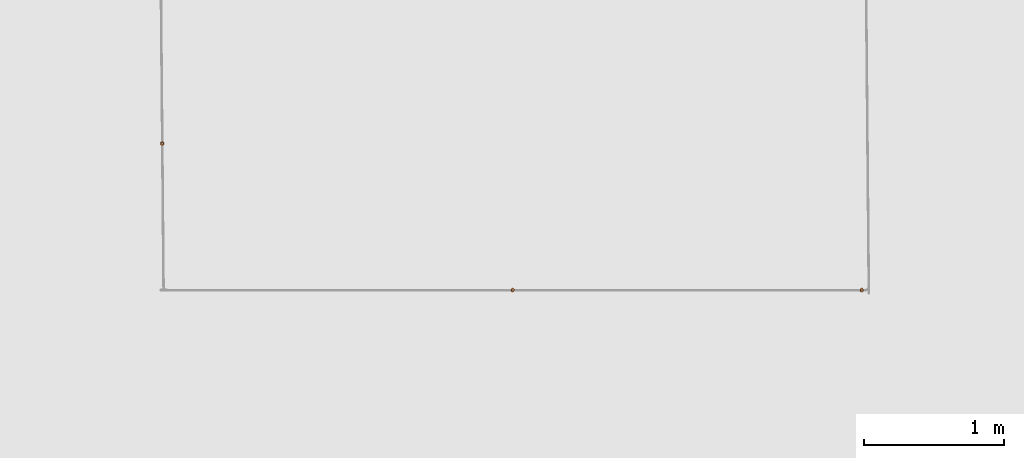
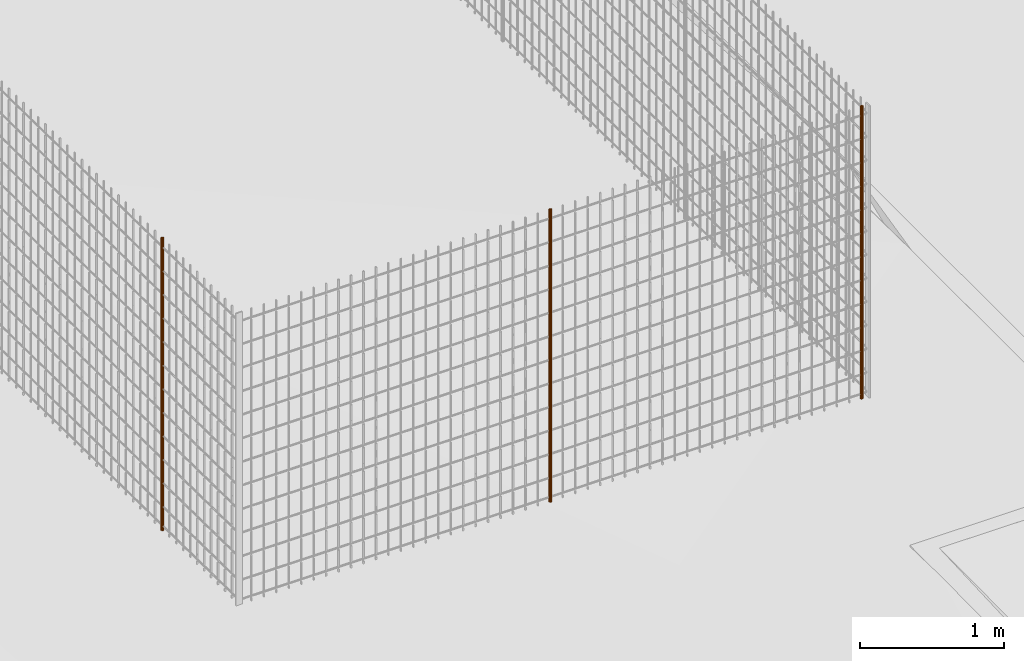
# One storey, part 9 of 1809: 3 proxies, 1 element without a shape of its own.
"""IFC2X3 building model written with IfcOpenShell, lengths in millimetres."""

from ifc_helpers import new_model, entity, si_unit, converted_unit, derived_unit, money_unit, direction, frame, origin_with_axes, place, context, subcontext, project, spatial, faceted_brep, source, transform, mapped, material, type_object, element, aggregate, save


model = new_model("IFC2X3")

# Units and contexts
model_context = context("Model", 3, precision=0.01, world=origin_with_axes(), true_north=direction((0.0, 1.0)))
body_context = subcontext(model_context, "Body", "Model", "MODEL_VIEW")
ifc_project = project(units=[si_unit("LENGTHUNIT", "METRE", prefix="MILLI"), si_unit("AREAUNIT", "SQUARE_METRE"), si_unit("VOLUMEUNIT", "CUBIC_METRE"), converted_unit("PLANEANGLEUNIT", "DEGREE", entity("IfcPlaneAngleMeasure", 0.0174532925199), si_unit("PLANEANGLEUNIT", "RADIAN"), dimensions=[0, 0, 0, 0, 0, 0, 0]), si_unit("SOLIDANGLEUNIT", "STERADIAN"), money_unit("EUR"), converted_unit("TIMEUNIT", "Year", entity("IfcTimeMeasure", 31556926.0), si_unit("TIMEUNIT", "SECOND"), dimensions=[0, 0, 1, 0, 0, 0, 0]), si_unit("MASSUNIT", "GRAM", prefix="KILO"), si_unit("THERMODYNAMICTEMPERATUREUNIT", "DEGREE_CELSIUS"), si_unit("LUMINOUSINTENSITYUNIT", "LUMEN"), si_unit("ENERGYUNIT", "JOULE", prefix="MEGA"), derived_unit("THERMALCONDUCTANCEUNIT", [(si_unit("POWERUNIT", "WATT"), 1), (si_unit("LENGTHUNIT", "METRE"), -1), (si_unit("THERMODYNAMICTEMPERATUREUNIT", "KELVIN"), -1)]), derived_unit("SPECIFICHEATCAPACITYUNIT", [(si_unit("ENERGYUNIT", "JOULE"), 1), (si_unit("MASSUNIT", "GRAM", prefix="KILO"), -1), (si_unit("THERMODYNAMICTEMPERATUREUNIT", "KELVIN"), -1)]), derived_unit("MASSDENSITYUNIT", [(si_unit("MASSUNIT", "GRAM", prefix="KILO"), 1), (si_unit("VOLUMEUNIT", "CUBIC_METRE"), -1)])], contexts=[model_context])

# Site, building, storey
site_placement = place(None, origin_with_axes())
site = spatial("IfcSite", under=ifc_project, at=site_placement, Name="Politse- ja Piirivalveameti ning Päästeameti ühishoone", CompositionType="ELEMENT")
building_placement = place(site_placement, origin_with_axes())
building = spatial("IfcBuilding", under=site, at=building_placement, Name="Politse- ja Piirivalveameti ning Päästeameti ühishoone", CompositionType="ELEMENT")
storey_placement = place(building_placement, origin_with_axes())
storey = spatial("IfcBuildingStorey", under=building, at=storey_placement, Name="Esimene korrus", CompositionType="ELEMENT", Elevation=0.0)

# Proxies
building_element_proxy_type_1 = type_object("IfcBuildingElementProxyType", Name="Railing Type", PredefinedType="NOTDEFINED")
proxy_1_placement = place(storey_placement, frame((-16775.8601056, 25156.7555964, 0.0), z_axis=(0.0, 0.0, 1.0), x_axis=(1.0, 0.0, 0.0)))
proxy_1 = element("IfcBuildingElementProxy", 1, at=proxy_1_placement, inside=storey, type_object=building_element_proxy_type_1, Name="KENNELI PIIRE")
ifc_material = material(Name="Teras - Konstruktsioon")
building_element_proxy_type_2 = type_object("IfcBuildingElementProxyType", Name="IfcBuildingElementProxy", PredefinedType="NOTDEFINED")
shared_shape_1 = source(origin_with_axes(), body_context, "Body", "Brep", [
    faceted_brep([(0.0, -12.0, 0.0), (2.083778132, -11.8176930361, 0.0), (2.083778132, -11.8176930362, 2480.0), (0.0, -12.0, 2480.0), (-2.083778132, -11.8176930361, 0.0), (-4.10424171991, -11.2763114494, 0.0), (-6.0, -10.3923048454, 0.0), (-7.71345131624, -9.19253331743, 0.0), (-9.19253331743, -7.71345131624, 0.0), (-10.3923048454, -6.0, 0.0), (-11.2763114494, -4.10424171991, 0.0), (-11.8176930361, -2.083778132, 0.0), (-12.0, 0.0, 0.0), (-11.8176930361, 2.083778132, 0.0), (-11.2763114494, 4.10424171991, 0.0), (-10.3923048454, 6.0, 0.0), (-9.19253331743, 7.71345131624, 0.0), (-7.71345131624, 9.19253331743, 0.0), (-6.0, 10.3923048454, 0.0), (-4.10424171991, 11.2763114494, 0.0), (-2.083778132, 11.8176930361, 0.0), (0.0, 12.0, 0.0), (2.083778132, 11.8176930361, 0.0), (4.10424171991, 11.2763114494, 0.0), (6.0, 10.3923048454, 0.0), (7.71345131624, 9.19253331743, 0.0), (9.19253331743, 7.71345131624, 0.0), (10.3923048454, 6.0, 0.0), (11.2763114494, 4.10424171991, 0.0), (11.8176930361, 2.083778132, 0.0), (12.0, 0.0, 0.0), (11.8176930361, -2.083778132, 0.0), (11.2763114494, -4.10424171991, 0.0), (10.3923048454, -6.0, 0.0), (9.19253331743, -7.71345131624, 0.0), (7.71345131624, -9.19253331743, 0.0), (6.0, -10.3923048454, 0.0), (4.10424171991, -11.2763114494, 0.0), (0.0, -7.0, 0.0), (1.21553724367, -6.89365427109, 0.0), (2.39414100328, -6.5778483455, 0.0), (3.5, -6.06217782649, 0.0), (4.49951326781, -5.36231110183, 0.0), (5.36231110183, -4.49951326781, 0.0), (6.06217782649, -3.5, 0.0), (6.5778483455, -2.39414100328, 0.0), (6.89365427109, -1.21553724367, 0.0), (7.0, 0.0, 0.0), (6.89365427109, 1.21553724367, 0.0), (6.5778483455, 2.39414100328, 0.0), (6.06217782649, 3.5, 0.0), (5.36231110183, 4.49951326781, 0.0), (4.49951326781, 5.36231110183, 0.0), (3.5, 6.06217782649, 0.0), (2.39414100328, 6.5778483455, 0.0), (1.21553724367, 6.89365427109, 0.0), (0.0, 7.0, 0.0), (-1.21553724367, 6.89365427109, 0.0), (-2.39414100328, 6.5778483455, 0.0), (-3.5, 6.06217782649, 0.0), (-4.49951326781, 5.36231110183, 0.0), (-5.36231110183, 4.49951326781, 0.0), (-6.06217782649, 3.5, 0.0), (-6.5778483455, 2.39414100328, 0.0), (-6.89365427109, 1.21553724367, 0.0), (-7.0, 0.0, 0.0), (-6.89365427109, -1.21553724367, 0.0), (-6.5778483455, -2.39414100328, 0.0), (-6.06217782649, -3.5, 0.0), (-5.36231110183, -4.49951326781, 0.0), (-4.49951326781, -5.36231110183, 0.0), (-3.5, -6.06217782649, 0.0), (-2.39414100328, -6.5778483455, 0.0), (-1.21553724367, -6.89365427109, 0.0), (4.1042417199, -11.2763114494, 2480.0), (5.99999999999, -10.3923048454, 2480.0), (7.71345131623, -9.19253331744, 2480.0), (9.19253331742, -7.71345131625, 2480.0), (10.3923048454, -6.00000000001, 2480.0), (11.2763114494, -4.10424171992, 2480.0), (11.8176930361, -2.08377813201, 2480.0), (12.0, 0.0, 2480.0), (11.8176930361, 2.08377813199, 2480.0), (11.2763114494, 4.1042417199, 2480.0), (10.3923048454, 5.99999999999, 2480.0), (9.19253331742, 7.71345131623, 2480.0), (7.71345131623, 9.19253331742, 2480.0), (5.99999999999, 10.3923048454, 2480.0), (4.1042417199, 11.2763114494, 2480.0), (2.083778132, 11.8176930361, 2480.0), (0.0, 12.0, 2480.0), (-2.08377813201, 11.8176930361, 2480.0), (-4.10424171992, 11.2763114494, 2480.0), (-6.00000000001, 10.3923048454, 2480.0), (-7.71345131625, 9.19253331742, 2480.0), (-9.19253331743, 7.71345131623, 2480.0), (-10.3923048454, 5.99999999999, 2480.0), (-11.2763114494, 4.1042417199, 2480.0), (-11.8176930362, 2.08377813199, 2480.0), (-12.0, 0.0, 2480.0), (-11.8176930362, -2.08377813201, 2480.0), (-11.2763114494, -4.10424171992, 2480.0), (-10.3923048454, -6.00000000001, 2480.0), (-9.19253331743, -7.71345131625, 2480.0), (-7.71345131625, -9.19253331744, 2480.0), (-6.00000000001, -10.3923048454, 2480.0), (-4.10424171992, -11.2763114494, 2480.0), (-2.08377813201, -11.8176930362, 2480.0), (0.0, -7.00000000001, 2480.0), (-1.21553724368, -6.89365427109, 2480.0), (-2.39414100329, -6.57784834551, 2480.0), (-3.50000000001, -6.0621778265, 2480.0), (-4.49951326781, -5.36231110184, 2480.0), (-5.36231110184, -4.49951326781, 2480.0), (-6.0621778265, -3.50000000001, 2480.0), (-6.57784834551, -2.39414100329, 2480.0), (-6.89365427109, -1.21553724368, 2480.0), (-7.00000000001, 0.0, 2480.0), (-6.89365427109, 1.21553724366, 2480.0), (-6.57784834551, 2.39414100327, 2480.0), (-6.0621778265, 3.49999999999, 2480.0), (-5.36231110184, 4.4995132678, 2480.0), (-4.49951326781, 5.36231110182, 2480.0), (-3.50000000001, 6.06217782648, 2480.0), (-2.39414100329, 6.57784834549, 2480.0), (-1.21553724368, 6.89365427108, 2480.0), (0.0, 6.99999999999, 2480.0), (1.21553724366, 6.89365427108, 2480.0), (2.39414100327, 6.57784834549, 2480.0), (3.49999999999, 6.06217782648, 2480.0), (4.4995132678, 5.36231110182, 2480.0), (5.36231110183, 4.4995132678, 2480.0), (6.06217782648, 3.49999999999, 2480.0), (6.57784834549, 2.39414100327, 2480.0), (6.89365427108, 1.21553724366, 2480.0), (6.99999999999, 0.0, 2480.0), (6.89365427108, -1.21553724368, 2480.0), (6.57784834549, -2.39414100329, 2480.0), (6.06217782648, -3.50000000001, 2480.0), (5.36231110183, -4.49951326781, 2480.0), (4.4995132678, -5.36231110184, 2480.0), (3.49999999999, -6.0621778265, 2480.0), (2.39414100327, -6.57784834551, 2480.0), (1.21553724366, -6.89365427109, 2480.0)], [[[0, 1, 2, 3]], [[0, 4, 5, 6, 7, 8, 9, 10, 11, 12, 13, 14, 15, 16, 17, 18, 19, 20, 21, 22, 23, 24, 25, 26, 27, 28, 29, 30, 31, 32, 33, 34, 35, 36, 37, 1], [38, 39, 40, 41, 42, 43, 44, 45, 46, 47, 48, 49, 50, 51, 52, 53, 54, 55, 56, 57, 58, 59, 60, 61, 62, 63, 64, 65, 66, 67, 68, 69, 70, 71, 72, 73]], [[1, 37, 74, 2]], [[3, 2, 74, 75, 76, 77, 78, 79, 80, 81, 82, 83, 84, 85, 86, 87, 88, 89, 90, 91, 92, 93, 94, 95, 96, 97, 98, 99, 100, 101, 102, 103, 104, 105, 106, 107], [108, 109, 110, 111, 112, 113, 114, 115, 116, 117, 118, 119, 120, 121, 122, 123, 124, 125, 126, 127, 128, 129, 130, 131, 132, 133, 134, 135, 136, 137, 138, 139, 140, 141, 142, 143]], [[4, 0, 3, 107]], [[5, 4, 107, 106]], [[6, 5, 106, 105]], [[7, 6, 105, 104]], [[8, 7, 104, 103]], [[9, 8, 103, 102]], [[10, 9, 102, 101]], [[11, 10, 101, 100]], [[12, 11, 100, 99]], [[13, 12, 99, 98]], [[14, 13, 98, 97]], [[15, 14, 97, 96]], [[16, 15, 96, 95]], [[17, 16, 95, 94]], [[18, 17, 94, 93]], [[19, 18, 93, 92]], [[20, 19, 92, 91]], [[21, 20, 91, 90]], [[22, 21, 90, 89]], [[23, 22, 89, 88]], [[24, 23, 88, 87]], [[25, 24, 87, 86]], [[26, 25, 86, 85]], [[27, 26, 85, 84]], [[28, 27, 84, 83]], [[29, 28, 83, 82]], [[30, 29, 82, 81]], [[31, 30, 81, 80]], [[32, 31, 80, 79]], [[33, 32, 79, 78]], [[34, 33, 78, 77]], [[35, 34, 77, 76]], [[36, 35, 76, 75]], [[37, 36, 75, 74]], [[39, 38, 108, 143]], [[40, 39, 143, 142]], [[41, 40, 142, 141]], [[42, 41, 141, 140]], [[43, 42, 140, 139]], [[44, 43, 139, 138]], [[45, 44, 138, 137]], [[46, 45, 137, 136]], [[47, 46, 136, 135]], [[48, 47, 135, 134]], [[49, 48, 134, 133]], [[50, 49, 133, 132]], [[51, 50, 132, 131]], [[52, 51, 131, 130]], [[53, 52, 130, 129]], [[54, 53, 129, 128]], [[55, 54, 128, 127]], [[56, 55, 127, 126]], [[57, 56, 126, 125]], [[58, 57, 125, 124]], [[59, 58, 124, 123]], [[60, 59, 123, 122]], [[61, 60, 122, 121]], [[62, 61, 121, 120]], [[63, 62, 120, 119]], [[64, 63, 119, 118]], [[65, 64, 118, 117]], [[66, 65, 117, 116]], [[67, 66, 116, 115]], [[68, 67, 115, 114]], [[69, 68, 114, 113]], [[70, 69, 113, 112]], [[71, 70, 112, 111]], [[72, 71, 111, 110]], [[73, 72, 110, 109]], [[38, 73, 109, 108]]]),
])
proxy_2_placement = place(proxy_1_placement, frame((-4891.60395565, -15019.1031937, 0.0), z_axis=(0.0, 0.0, 1.0), x_axis=(1.0, 0.0, 0.0)))
proxy_2 = element("IfcBuildingElementProxy", 2, at=proxy_2_placement, type_object=building_element_proxy_type_2, material=ifc_material, Name="SISEPOST - 001", context=body_context, shape_type="MappedRepresentation", body=[
    mapped(shared_shape_1, transform((0.0, 0.0, 0.0), x_axis=(-0.999960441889, -0.00889464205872, 0.0), y_axis=(0.00889464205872, -0.999960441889, 0.0), z_axis=(0.0, 0.0, 1.0))),
])
shared_shape_2 = source(origin_with_axes(), body_context, "Body", "Brep", [
    faceted_brep([(0.0, -12.0, 0.0), (2.083778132, -11.8176930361, 0.0), (2.08377813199, -11.8176930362, 2480.0), (0.0, -12.0, 2480.0), (-2.083778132, -11.8176930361, 0.0), (-4.10424171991, -11.2763114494, 0.0), (-6.0, -10.3923048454, 0.0), (-7.71345131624, -9.19253331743, 0.0), (-9.19253331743, -7.71345131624, 0.0), (-10.3923048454, -6.0, 0.0), (-11.2763114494, -4.10424171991, 0.0), (-11.8176930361, -2.083778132, 0.0), (-12.0, 0.0, 0.0), (-11.8176930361, 2.083778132, 0.0), (-11.2763114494, 4.10424171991, 0.0), (-10.3923048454, 6.0, 0.0), (-9.19253331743, 7.71345131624, 0.0), (-7.71345131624, 9.19253331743, 0.0), (-6.0, 10.3923048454, 0.0), (-4.10424171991, 11.2763114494, 0.0), (-2.083778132, 11.8176930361, 0.0), (0.0, 12.0, 0.0), (2.083778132, 11.8176930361, 0.0), (4.10424171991, 11.2763114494, 0.0), (6.0, 10.3923048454, 0.0), (7.71345131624, 9.19253331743, 0.0), (9.19253331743, 7.71345131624, 0.0), (10.3923048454, 6.0, 0.0), (11.2763114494, 4.10424171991, 0.0), (11.8176930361, 2.083778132, 0.0), (12.0, 0.0, 0.0), (11.8176930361, -2.083778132, 0.0), (11.2763114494, -4.10424171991, 0.0), (10.3923048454, -6.0, 0.0), (9.19253331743, -7.71345131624, 0.0), (7.71345131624, -9.19253331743, 0.0), (6.0, -10.3923048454, 0.0), (4.10424171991, -11.2763114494, 0.0), (0.0, -7.0, 0.0), (1.21553724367, -6.89365427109, 0.0), (2.39414100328, -6.5778483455, 0.0), (3.5, -6.06217782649, 0.0), (4.49951326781, -5.36231110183, 0.0), (5.36231110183, -4.49951326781, 0.0), (6.06217782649, -3.5, 0.0), (6.5778483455, -2.39414100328, 0.0), (6.89365427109, -1.21553724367, 0.0), (7.0, 0.0, 0.0), (6.89365427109, 1.21553724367, 0.0), (6.5778483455, 2.39414100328, 0.0), (6.06217782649, 3.5, 0.0), (5.36231110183, 4.49951326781, 0.0), (4.49951326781, 5.36231110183, 0.0), (3.5, 6.06217782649, 0.0), (2.39414100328, 6.5778483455, 0.0), (1.21553724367, 6.89365427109, 0.0), (0.0, 7.0, 0.0), (-1.21553724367, 6.89365427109, 0.0), (-2.39414100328, 6.5778483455, 0.0), (-3.5, 6.06217782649, 0.0), (-4.49951326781, 5.36231110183, 0.0), (-5.36231110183, 4.49951326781, 0.0), (-6.06217782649, 3.5, 0.0), (-6.5778483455, 2.39414100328, 0.0), (-6.89365427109, 1.21553724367, 0.0), (-7.0, 0.0, 0.0), (-6.89365427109, -1.21553724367, 0.0), (-6.5778483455, -2.39414100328, 0.0), (-6.06217782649, -3.5, 0.0), (-5.36231110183, -4.49951326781, 0.0), (-4.49951326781, -5.36231110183, 0.0), (-3.5, -6.06217782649, 0.0), (-2.39414100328, -6.5778483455, 0.0), (-1.21553724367, -6.89365427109, 0.0), (4.1042417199, -11.2763114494, 2480.0), (5.99999999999, -10.3923048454, 2480.0), (7.71345131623, -9.19253331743, 2480.0), (9.19253331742, -7.71345131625, 2480.0), (10.3923048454, -6.00000000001, 2480.0), (11.2763114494, -4.10424171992, 2480.0), (11.8176930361, -2.08377813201, 2480.0), (12.0, 0.0, 2480.0), (11.8176930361, 2.083778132, 2480.0), (11.2763114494, 4.1042417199, 2480.0), (10.3923048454, 5.99999999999, 2480.0), (9.19253331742, 7.71345131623, 2480.0), (7.71345131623, 9.19253331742, 2480.0), (5.99999999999, 10.3923048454, 2480.0), (4.1042417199, 11.2763114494, 2480.0), (2.08377813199, 11.8176930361, 2480.0), (0.0, 12.0, 2480.0), (-2.08377813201, 11.8176930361, 2480.0), (-4.10424171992, 11.2763114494, 2480.0), (-6.00000000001, 10.3923048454, 2480.0), (-7.71345131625, 9.19253331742, 2480.0), (-9.19253331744, 7.71345131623, 2480.0), (-10.3923048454, 5.99999999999, 2480.0), (-11.2763114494, 4.1042417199, 2480.0), (-11.8176930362, 2.083778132, 2480.0), (-12.0, 0.0, 2480.0), (-11.8176930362, -2.08377813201, 2480.0), (-11.2763114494, -4.10424171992, 2480.0), (-10.3923048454, -6.00000000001, 2480.0), (-9.19253331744, -7.71345131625, 2480.0), (-7.71345131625, -9.19253331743, 2480.0), (-6.00000000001, -10.3923048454, 2480.0), (-4.10424171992, -11.2763114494, 2480.0), (-2.08377813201, -11.8176930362, 2480.0), (0.0, -7.00000000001, 2480.0), (-1.21553724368, -6.89365427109, 2480.0), (-2.39414100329, -6.57784834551, 2480.0), (-3.50000000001, -6.0621778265, 2480.0), (-4.49951326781, -5.36231110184, 2480.0), (-5.36231110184, -4.49951326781, 2480.0), (-6.0621778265, -3.50000000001, 2480.0), (-6.57784834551, -2.39414100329, 2480.0), (-6.89365427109, -1.21553724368, 2480.0), (-7.00000000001, 0.0, 2480.0), (-6.89365427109, 1.21553724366, 2480.0), (-6.57784834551, 2.39414100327, 2480.0), (-6.0621778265, 3.49999999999, 2480.0), (-5.36231110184, 4.4995132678, 2480.0), (-4.49951326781, 5.36231110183, 2480.0), (-3.50000000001, 6.06217782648, 2480.0), (-2.39414100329, 6.57784834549, 2480.0), (-1.21553724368, 6.89365427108, 2480.0), (0.0, 6.99999999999, 2480.0), (1.21553724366, 6.89365427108, 2480.0), (2.39414100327, 6.57784834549, 2480.0), (3.49999999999, 6.06217782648, 2480.0), (4.4995132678, 5.36231110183, 2480.0), (5.36231110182, 4.4995132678, 2480.0), (6.06217782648, 3.49999999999, 2480.0), (6.57784834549, 2.39414100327, 2480.0), (6.89365427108, 1.21553724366, 2480.0), (6.99999999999, 0.0, 2480.0), (6.89365427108, -1.21553724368, 2480.0), (6.57784834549, -2.39414100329, 2480.0), (6.06217782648, -3.50000000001, 2480.0), (5.36231110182, -4.49951326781, 2480.0), (4.4995132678, -5.36231110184, 2480.0), (3.49999999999, -6.0621778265, 2480.0), (2.39414100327, -6.57784834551, 2480.0), (1.21553724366, -6.89365427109, 2480.0)], [[[0, 1, 2, 3]], [[0, 4, 5, 6, 7, 8, 9, 10, 11, 12, 13, 14, 15, 16, 17, 18, 19, 20, 21, 22, 23, 24, 25, 26, 27, 28, 29, 30, 31, 32, 33, 34, 35, 36, 37, 1], [38, 39, 40, 41, 42, 43, 44, 45, 46, 47, 48, 49, 50, 51, 52, 53, 54, 55, 56, 57, 58, 59, 60, 61, 62, 63, 64, 65, 66, 67, 68, 69, 70, 71, 72, 73]], [[1, 37, 74, 2]], [[3, 2, 74, 75, 76, 77, 78, 79, 80, 81, 82, 83, 84, 85, 86, 87, 88, 89, 90, 91, 92, 93, 94, 95, 96, 97, 98, 99, 100, 101, 102, 103, 104, 105, 106, 107], [108, 109, 110, 111, 112, 113, 114, 115, 116, 117, 118, 119, 120, 121, 122, 123, 124, 125, 126, 127, 128, 129, 130, 131, 132, 133, 134, 135, 136, 137, 138, 139, 140, 141, 142, 143]], [[4, 0, 3, 107]], [[5, 4, 107, 106]], [[6, 5, 106, 105]], [[7, 6, 105, 104]], [[8, 7, 104, 103]], [[9, 8, 103, 102]], [[10, 9, 102, 101]], [[11, 10, 101, 100]], [[12, 11, 100, 99]], [[13, 12, 99, 98]], [[14, 13, 98, 97]], [[15, 14, 97, 96]], [[16, 15, 96, 95]], [[17, 16, 95, 94]], [[18, 17, 94, 93]], [[19, 18, 93, 92]], [[20, 19, 92, 91]], [[21, 20, 91, 90]], [[22, 21, 90, 89]], [[23, 22, 89, 88]], [[24, 23, 88, 87]], [[25, 24, 87, 86]], [[26, 25, 86, 85]], [[27, 26, 85, 84]], [[28, 27, 84, 83]], [[29, 28, 83, 82]], [[30, 29, 82, 81]], [[31, 30, 81, 80]], [[32, 31, 80, 79]], [[33, 32, 79, 78]], [[34, 33, 78, 77]], [[35, 34, 77, 76]], [[36, 35, 76, 75]], [[37, 36, 75, 74]], [[39, 38, 108, 143]], [[40, 39, 143, 142]], [[41, 40, 142, 141]], [[42, 41, 141, 140]], [[43, 42, 140, 139]], [[44, 43, 139, 138]], [[45, 44, 138, 137]], [[46, 45, 137, 136]], [[47, 46, 136, 135]], [[48, 47, 135, 134]], [[49, 48, 134, 133]], [[50, 49, 133, 132]], [[51, 50, 132, 131]], [[52, 51, 131, 130]], [[53, 52, 130, 129]], [[54, 53, 129, 128]], [[55, 54, 128, 127]], [[56, 55, 127, 126]], [[57, 56, 126, 125]], [[58, 57, 125, 124]], [[59, 58, 124, 123]], [[60, 59, 123, 122]], [[61, 60, 122, 121]], [[62, 61, 121, 120]], [[63, 62, 120, 119]], [[64, 63, 119, 118]], [[65, 64, 118, 117]], [[66, 65, 117, 116]], [[67, 66, 116, 115]], [[68, 67, 115, 114]], [[69, 68, 114, 113]], [[70, 69, 113, 112]], [[71, 70, 112, 111]], [[72, 71, 111, 110]], [[73, 72, 110, 109]], [[38, 73, 109, 108]]]),
])
proxy_3_placement = place(proxy_1_placement, frame((-2382.26655065, -16068.8402798, 0.0), z_axis=(0.0, 0.0, 1.0), x_axis=(1.0, 0.0, 0.0)))
proxy_3 = element("IfcBuildingElementProxy", 3, at=proxy_3_placement, type_object=building_element_proxy_type_2, material=ifc_material, Name="SISEPOST - 001", context=body_context, shape_type="MappedRepresentation", body=[
    mapped(shared_shape_2, transform((0.0, 0.0, 0.0), x_axis=(0.0, -1.0, 0.0), y_axis=(1.0, 0.0, 0.0), z_axis=(0.0, 0.0, 1.0))),
])
proxy_4_placement = place(proxy_1_placement, frame((117.733449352, -16068.8402798, 0.0), z_axis=(0.0, 0.0, 1.0), x_axis=(1.0, 0.0, 0.0)))
proxy_4 = element("IfcBuildingElementProxy", 4, at=proxy_4_placement, type_object=building_element_proxy_type_2, material=ifc_material, Name="SISEPOST - 001", context=body_context, shape_type="MappedRepresentation", body=[
    mapped(shared_shape_2, transform((0.0, 0.0, 0.0), x_axis=(0.0, -1.0, 0.0), y_axis=(1.0, 0.0, 0.0), z_axis=(0.0, 0.0, 1.0))),
])
aggregate(proxy_1, [proxy_2, proxy_3, proxy_4])

save(model, "model.ifc")
